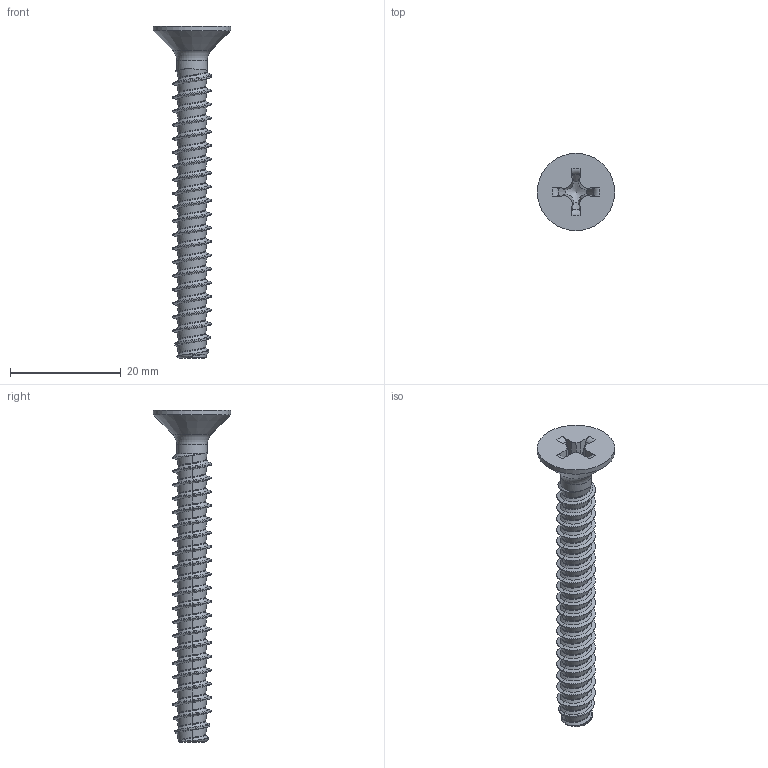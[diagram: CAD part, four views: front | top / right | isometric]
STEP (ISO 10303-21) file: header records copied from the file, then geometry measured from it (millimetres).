
FILE_DESCRIPTION(/* description */ (''),/* implementation_level */ '2;1');
FILE_NAME(/* name */ 'KN6041-STSplus-70x60-H3.step',/* time_stamp */ '2017-10-12T12:54:01+02:00',/* author */ (''),/* organization */ (''),/* preprocessor_version */ 'ST-DEVELOPER v16',/* originating_system */ 'SIEMENS PLM Software NX 10.0',/* authorisation */ '');
FILE_SCHEMA (('AUTOMOTIVE_DESIGN { 1 0 10303 214 3 1 1 1 }'));
Length unit declared in the file: millimetre
Products named in the file (1): KN6041-STSplus-70x60-H3
Bounding box: 14 x 14 x 60 mm (x, y, z)
Volume: 1718 mm3; surface area: 1882.2 mm2
Topology: 1 solids, 1 shells, 144 faces, 341 edges, 199 vertices
Faces by surface type: bspline 109, plane 18, cone 8, torus 6, cylinder 3
Full cylindrical faces by diameter (mm): 5.48 x1, 14 x1
Entity records: 10800 total; most frequent: CARTESIAN_POINT 8232, ORIENTED_EDGE 660, EDGE_CURVE 330, DIRECTION 246, VERTEX_POINT 195, B_SPLINE_CURVE_WITH_KNOTS 177, EDGE_LOOP 150, ADVANCED_FACE 144
